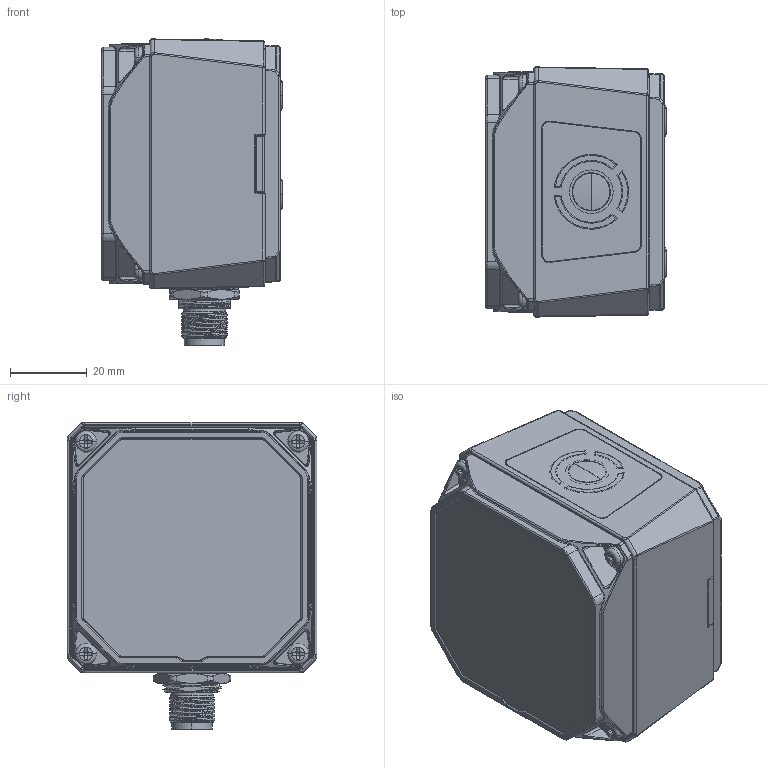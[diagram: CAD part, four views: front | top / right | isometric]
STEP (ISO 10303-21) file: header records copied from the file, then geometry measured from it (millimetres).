
FILE_DESCRIPTION((''),'2;1');
FILE_NAME('ID3013','2023-02-15T16:36:20',('zhangfeixiang8'),(''),'CREO PARAMETRIC BY PTC INC, 2020044','CREO PARAMETRIC BY PTC INC, 2020044','');
FILE_SCHEMA(('CONFIG_CONTROL_DESIGN'));
Products named in the file (1): ID3013
Bounding box: 47 x 65.18 x 79.99 mm (x, y, z)
Volume: 177776.1 mm3; surface area: 40082.2 mm2
Topology: 3 solids, 57 shells, 3160 faces, 7789 edges, 4734 vertices
Faces by surface type: cylinder 1208, plane 858, bspline 451, torus 291, cone 234, sphere 80, revolution 24, extrusion 14
Entity records: 129046 total; most frequent: CARTESIAN_POINT 58066, ORIENTED_EDGE 15296, DIRECTION 14059, EDGE_CURVE 7701, AXIS2_PLACEMENT_3D 5466, VERTEX_POINT 4734, EDGE_LOOP 3355, FACE_OUTER_BOUND 3160
